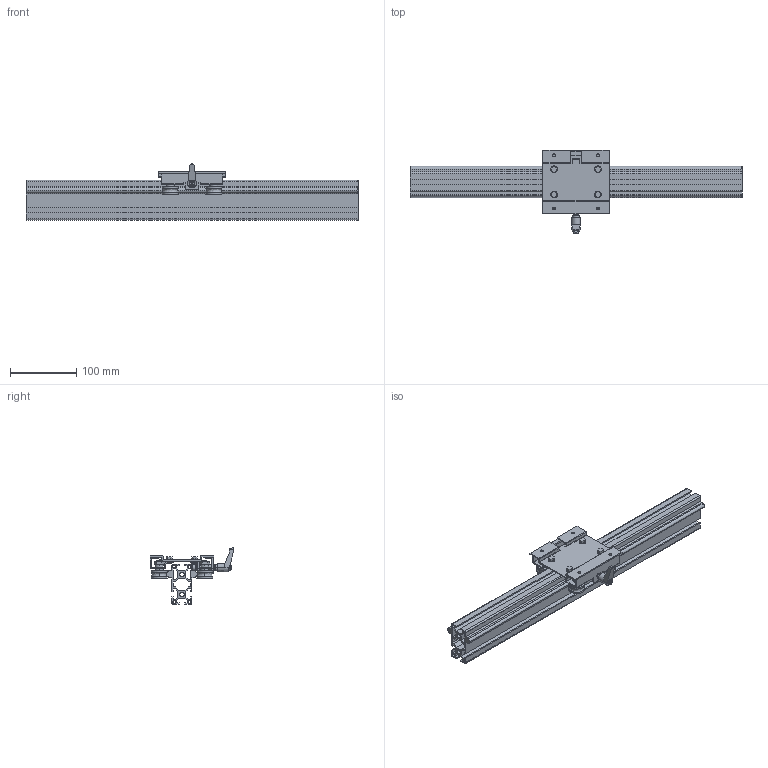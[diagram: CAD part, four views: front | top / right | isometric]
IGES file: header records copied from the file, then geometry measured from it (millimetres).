
Global section: file name: No Iges File Name specified; native system: AutoDesk Inventor R11.0; preprocessor: AutoDesk Inventor Iges Exporter R11.0; author: No Author specified; organization: No Organization specified; date: 20180803.161320; units: millimetre
Bounding box: 500 x 126.5 x 85.2 mm (x, y, z)
Surface area: 345010 mm2 (no closed solid volume)
Topology: 0 solids, 0 shells, 550 faces, 3400 edges, 3399 vertices
Faces by surface type: bspline 550
